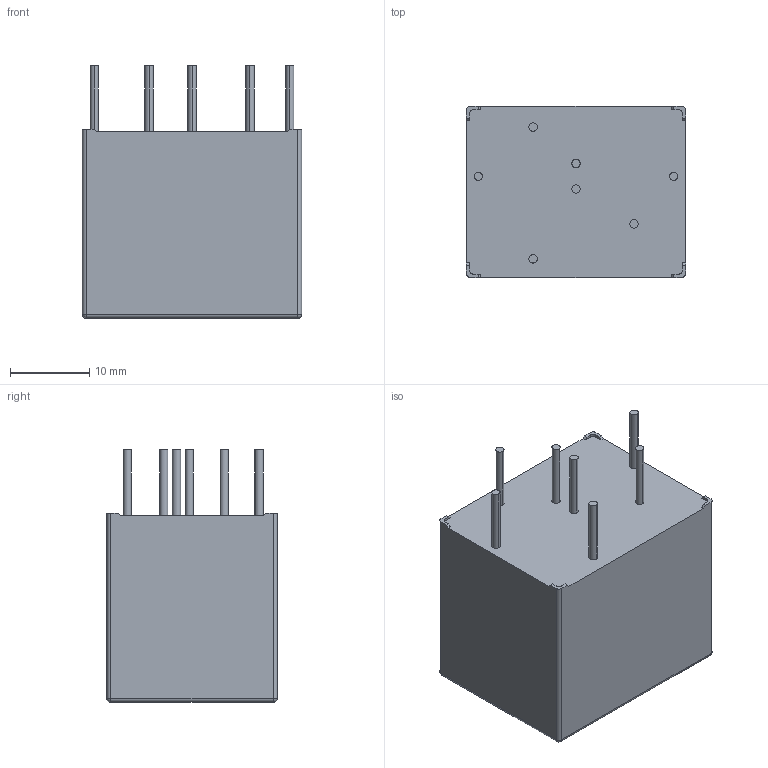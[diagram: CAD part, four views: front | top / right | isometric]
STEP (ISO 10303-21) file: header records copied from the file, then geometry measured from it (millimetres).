
FILE_DESCRIPTION((''),'2;1');
FILE_NAME('001_BH0510-_400','2020-07-14T09:57:08',('SET-01224'),(''),'CREO PARAMETRIC BY PTC INC, 2018050','CREO PARAMETRIC BY PTC INC, 2018050','');
FILE_SCHEMA(('CONFIG_CONTROL_DESIGN'));
Length unit declared in the file: millimetre
Products named in the file (1): 001_BH0510-_400
Bounding box: 27.6 x 21.5 x 31.8 mm (x, y, z)
Volume: 13986.4 mm3; surface area: 3651.4 mm2
Topology: 1 solids, 1 shells, 63 faces, 154 edges, 96 vertices
Faces by surface type: plane 33, cylinder 26, sphere 4
Entity records: 1858 total; most frequent: DIRECTION 328, CARTESIAN_POINT 309, ORIENTED_EDGE 300, EDGE_CURVE 150, AXIS2_PLACEMENT_3D 115, VECTOR 98, LINE 98, VERTEX_POINT 96
